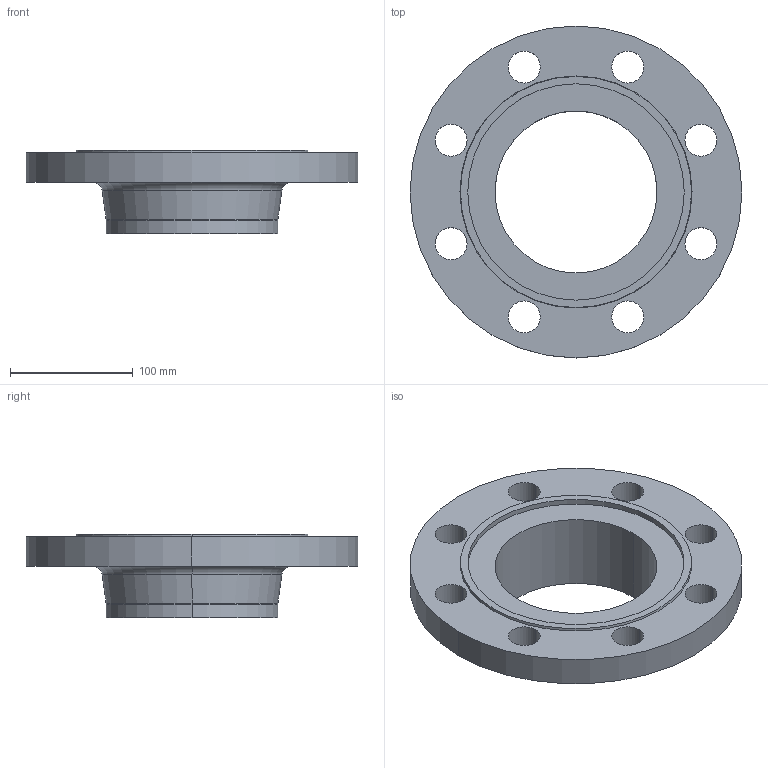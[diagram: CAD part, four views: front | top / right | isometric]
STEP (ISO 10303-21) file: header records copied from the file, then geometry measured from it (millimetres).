
FILE_DESCRIPTION (( 'STEP AP214' ), '1' );
FILE_NAME ('PN40 DN125 Type 11 - Type F Face.STEP', '2019-01-02T19:24:01', ( '' ), ( '' ), 'SwSTEP 2.0', 'SolidWorks 2019', '' );
FILE_SCHEMA (( 'AUTOMOTIVE_DESIGN' ));
Length unit declared in the file: millimetre
Products named in the file (1): PN40 DN125 Type 11 - Type F Face
Bounding box: 270 x 270 x 68 mm (x, y, z)
Volume: 1030366.2 mm3; surface area: 160510.3 mm2
Topology: 1 solids, 1 shells, 37 faces, 90 edges, 58 vertices
Faces by surface type: cylinder 24, plane 5, torus 4, cone 4
Entity records: 1188 total; most frequent: DIRECTION 228, CARTESIAN_POINT 186, ORIENTED_EDGE 180, AXIS2_PLACEMENT_3D 100, EDGE_CURVE 90, CIRCLE 62, VERTEX_POINT 58, EDGE_LOOP 58
